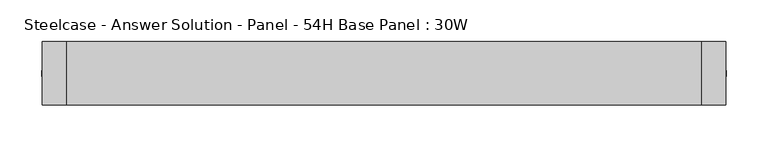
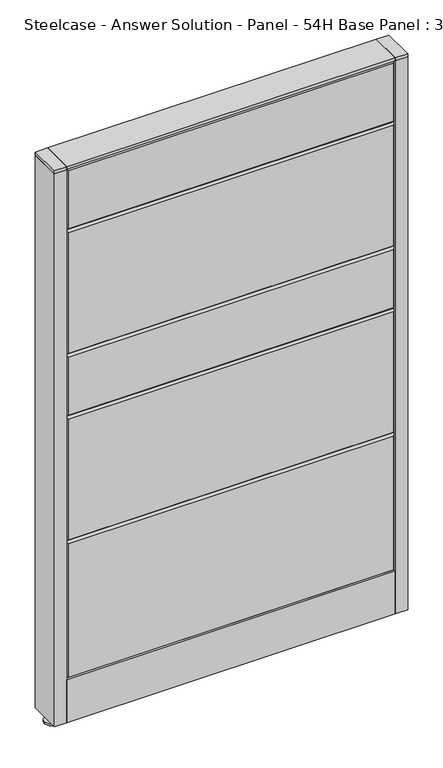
"""IFC4 building model written with IfcOpenShell, lengths in millimetres: furniture geometry, Steelcase - Answer Solution - Panel - 54H Base Panel : 30W."""

from ifc_helpers import new_model, si_unit, point, frame, frame_2d, origin, place, context, project, spatial, polyline, circle_curve, trimmed, segment, composite_curve, outline, extrude, faceted_brep, source, transform, mapped, element, save


def steelcase_answer_solution_panel_54h_base_panel_30w_6c8328d0(model_context):
    return source(origin(), model_context, "Body", "SolidModel", [
        extrude(outline(composite_curve([segment(trimmed(circle_curve(frame_2d((395.224, 0.0320214)), 5.08), [point((400.304, 0.0320214))], [point((390.144, 0.0320214))], False, "CARTESIAN"), True, "CONTINUOUS"), segment(trimmed(circle_curve(frame_2d((395.224, 0.0320214)), 5.08), [point((390.144, 0.0320214))], [point((400.304, 0.0320214))], False, "CARTESIAN"), True, "CONTINUOUS")], self_intersect=False)), frame((0.0, 0.0, 5.0799671), z_axis=(0.0, 0.0, 1.0), x_axis=(1.0, 0.0, 0.0)), (0.0, 0.0, 1.0), 10.414),
        extrude(outline(composite_curve([segment(trimmed(circle_curve(frame_2d((395.224, 0.0320214)), 15.24), [point((410.464, 0.0320214))], [point((379.984, 0.0320214))], False, "CARTESIAN"), True, "CONTINUOUS"), segment(trimmed(circle_curve(frame_2d((395.224, 0.0320214)), 15.24), [point((379.984, 0.0320214))], [point((410.464, 0.0320214))], False, "CARTESIAN"), True, "CONTINUOUS")], self_intersect=False)), frame((0.0, 0.0, -3.29e-05), z_axis=(0.0, 0.0, 1.0), x_axis=(1.0, 0.0, 0.0)), (0.0, 0.0, 1.0), 5.08),
        extrude(outline(polyline([(409.575, 38.1320408), (409.575, -38.0679592), (381.0, -38.0679592), (381.0, 38.1320408), (409.575, 38.1320408)])), frame((0.0, 0.0, 1370.6348), z_axis=(0.0, 0.0, 1.0), x_axis=(1.0, 0.0, 0.0)), (0.0, 0.0, 1.0), 7.3151671),
        extrude(outline(polyline([(409.575, 38.1320408), (409.575, -38.0679592), (381.0, -38.0679592), (381.0, 38.1320408), (409.575, 38.1320408)])), frame((0.0, 0.0, 15.4939671), z_axis=(0.0, 0.0, 1.0), x_axis=(1.0, 0.0, 0.0)), (0.0, 0.0, 1.0), 1355.1408329),
        extrude(outline(composite_curve([segment(trimmed(circle_curve(frame_2d((-395.224, 0.0320214)), 5.08), [point((-400.304, 0.0320214))], [point((-390.144, 0.0320214))], False, "CARTESIAN"), True, "CONTINUOUS"), segment(trimmed(circle_curve(frame_2d((-395.224, 0.0320214)), 5.08), [point((-390.144, 0.0320214))], [point((-400.304, 0.0320214))], False, "CARTESIAN"), True, "CONTINUOUS")], self_intersect=False)), frame((0.0, 0.0, 5.0799671), z_axis=(0.0, 0.0, 1.0), x_axis=(1.0, 0.0, 0.0)), (0.0, 0.0, 1.0), 10.414),
        extrude(outline(composite_curve([segment(trimmed(circle_curve(frame_2d((-395.224, 0.0320214)), 15.24), [point((-410.464, 0.0320214))], [point((-379.984, 0.0320214))], False, "CARTESIAN"), True, "CONTINUOUS"), segment(trimmed(circle_curve(frame_2d((-395.224, 0.0320214)), 15.24), [point((-379.984, 0.0320214))], [point((-410.464, 0.0320214))], False, "CARTESIAN"), True, "CONTINUOUS")], self_intersect=False)), frame((0.0, 0.0, -3.29e-05), z_axis=(0.0, 0.0, 1.0), x_axis=(1.0, 0.0, 0.0)), (0.0, 0.0, 1.0), 5.08),
        extrude(outline(polyline([(-409.575, 38.1320408), (-381.0, 38.1320408), (-381.0, -38.0679592), (-409.575, -38.0679592), (-409.575, 38.1320408)])), frame((0.0, 0.0, 1370.6348), z_axis=(0.0, 0.0, 1.0), x_axis=(1.0, 0.0, 0.0)), (0.0, 0.0, 1.0), 7.3151671),
        extrude(outline(polyline([(-409.575, 38.1320408), (-381.0, 38.1320408), (-381.0, -38.0679592), (-409.575, -38.0679592), (-409.575, 38.1320408)])), frame((0.0, 0.0, 15.4939671), z_axis=(0.0, 0.0, 1.0), x_axis=(1.0, 0.0, 0.0)), (0.0, 0.0, 1.0), 1355.1408329),
        faceted_brep([(-376.174, 38.1635011, 1366.774), (376.174, 38.1635011, 1366.774), (376.174, 38.1635011, 1224.026), (-376.174, 38.1635011, 1224.026), (-381.0, 33.3375011, 1371.6), (-381.0, 33.3375011, 1219.2), (381.0, 33.3375011, 1219.2), (381.0, 33.3375011, 1371.6)], [[[0, 1, 2, 3]], [[4, 5, 6, 7]], [[4, 7, 1, 0]], [[7, 6, 2, 1]], [[6, 5, 3, 2]], [[5, 4, 0, 3]]]),
        faceted_brep([(-376.174, 38.1635011, 1214.374), (376.174, 38.1635011, 1214.374), (376.174, 38.1635011, 919.226), (-376.174, 38.1635011, 919.226), (-381.0, 33.3375011, 1219.2), (-381.0, 33.3375011, 914.4), (381.0, 33.3375011, 914.4), (381.0, 33.3375011, 1219.2)], [[[0, 1, 2, 3]], [[4, 5, 6, 7]], [[4, 7, 1, 0]], [[7, 6, 2, 1]], [[6, 5, 3, 2]], [[5, 4, 0, 3]]]),
        faceted_brep([(-376.174, 38.1635011, 909.574), (376.174, 38.1635011, 909.574), (376.174, 38.1635011, 766.826), (-376.174, 38.1635011, 766.826), (-381.0, 33.3375011, 914.4), (-381.0, 33.3375011, 762.0), (381.0, 33.3375011, 762.0), (381.0, 33.3375011, 914.4)], [[[0, 1, 2, 3]], [[4, 5, 6, 7]], [[4, 7, 1, 0]], [[7, 6, 2, 1]], [[6, 5, 3, 2]], [[5, 4, 0, 3]]]),
        faceted_brep([(-376.174, 38.1635011, 757.174), (376.174, 38.1635011, 757.174), (376.174, 38.1635011, 462.026), (-376.174, 38.1635011, 462.026), (-381.0, 33.3375011, 762.0), (-381.0, 33.3375011, 457.2), (381.0, 33.3375011, 457.2), (381.0, 33.3375011, 762.0)], [[[0, 1, 2, 3]], [[4, 5, 6, 7]], [[4, 7, 1, 0]], [[7, 6, 2, 1]], [[6, 5, 3, 2]], [[5, 4, 0, 3]]]),
        faceted_brep([(-376.174, 38.1635011, 452.374), (376.174, 38.1635011, 452.374), (376.174, 38.1635011, 125.476), (-376.174, 38.1635011, 125.476), (-381.0, 33.3375011, 457.2), (-381.0, 33.3375011, 120.65), (381.0, 33.3375011, 120.65), (381.0, 33.3375011, 457.2)], [[[0, 1, 2, 3]], [[4, 5, 6, 7]], [[4, 7, 1, 0]], [[7, 6, 2, 1]], [[6, 5, 3, 2]], [[5, 4, 0, 3]]]),
        faceted_brep([(376.174, -38.1635011, 1366.774), (-376.174, -38.1635011, 1366.774), (-376.174, -38.1635011, 1224.026), (376.174, -38.1635011, 1224.026), (381.0, -33.3375011, 1371.6), (381.0, -33.3375011, 1219.2), (-381.0, -33.3375011, 1219.2), (-381.0, -33.3375011, 1371.6)], [[[0, 1, 2, 3]], [[4, 5, 6, 7]], [[4, 7, 1, 0]], [[7, 6, 2, 1]], [[6, 5, 3, 2]], [[5, 4, 0, 3]]]),
        faceted_brep([(376.174, -38.1635011, 1214.374), (-376.174, -38.1635011, 1214.374), (-376.174, -38.1635011, 919.226), (376.174, -38.1635011, 919.226), (381.0, -33.3375011, 1219.2), (381.0, -33.3375011, 914.4), (-381.0, -33.3375011, 914.4), (-381.0, -33.3375011, 1219.2)], [[[0, 1, 2, 3]], [[4, 5, 6, 7]], [[4, 7, 1, 0]], [[7, 6, 2, 1]], [[6, 5, 3, 2]], [[5, 4, 0, 3]]]),
        faceted_brep([(376.174, -38.1635011, 909.574), (-376.174, -38.1635011, 909.574), (-376.174, -38.1635011, 766.826), (376.174, -38.1635011, 766.826), (381.0, -33.3375011, 914.4), (381.0, -33.3375011, 762.0), (-381.0, -33.3375011, 762.0), (-381.0, -33.3375011, 914.4)], [[[0, 1, 2, 3]], [[4, 5, 6, 7]], [[4, 7, 1, 0]], [[7, 6, 2, 1]], [[6, 5, 3, 2]], [[5, 4, 0, 3]]]),
        faceted_brep([(376.174, -38.1635011, 757.174), (-376.174, -38.1635011, 757.174), (-376.174, -38.1635011, 462.026), (376.174, -38.1635011, 462.026), (381.0, -33.3375011, 762.0), (381.0, -33.3375011, 457.2), (-381.0, -33.3375011, 457.2), (-381.0, -33.3375011, 762.0)], [[[0, 1, 2, 3]], [[4, 5, 6, 7]], [[4, 7, 1, 0]], [[7, 6, 2, 1]], [[6, 5, 3, 2]], [[5, 4, 0, 3]]]),
        faceted_brep([(376.174, -38.1635011, 452.374), (-376.174, -38.1635011, 452.374), (-376.174, -38.1635011, 125.476), (376.174, -38.1635011, 125.476), (381.0, -33.3375011, 457.2), (381.0, -33.3375011, 120.65), (-381.0, -33.3375011, 120.65), (-381.0, -33.3375011, 457.2)], [[[0, 1, 2, 3]], [[4, 5, 6, 7]], [[4, 7, 1, 0]], [[7, 6, 2, 1]], [[6, 5, 3, 2]], [[5, 4, 0, 3]]]),
        extrude(outline(polyline([(381.0, 38.1000194), (381.0, -38.1000194), (-381.0, -38.1000194), (-381.0, 38.1000194), (381.0, 38.1000194)])), frame((0.0, 0.0, 1371.6), z_axis=(0.0, 0.0, 1.0), x_axis=(1.0, 0.0, 0.0)), (0.0, 0.0, 1.0), 6.35),
        extrude(outline(polyline([(25.4000011, 119.8575157), (25.4000011, 120.65), (38.1000194, 120.65), (38.1000194, 15.494), (37.3075215, 15.494), (37.3075215, 119.8575157), (25.4000011, 119.8575157)])), frame((-381.0, 0.0, 0.0), z_axis=(1.0, 0.0, 0.0), x_axis=(0.0, 1.0, 0.0)), (0.0, 0.0, 1.0), 762.0),
        extrude(outline(polyline([(-25.4000011, 119.8575157), (-37.3075215, 119.8575157), (-37.3075215, 15.494), (-38.1000194, 15.494), (-38.1000194, 120.65), (-25.4000011, 120.65), (-25.4000011, 119.8575157)])), frame((-381.0, 0.0, 0.0), z_axis=(1.0, 0.0, 0.0), x_axis=(0.0, 1.0, 0.0)), (0.0, 0.0, 1.0), 762.0),
    ])


if __name__ == "__main__":
    model = new_model("IFC4")
    model_context = context("Model", 3, world=origin())
    ifc_project = project(units=[si_unit("LENGTHUNIT", "METRE", prefix="MILLI")], contexts=[model_context])
    site = spatial("IfcSite", under=ifc_project)
    building = spatial("IfcBuilding", under=site)
    placement = place(None, origin())
    steelcase_answer_solution_panel_54h_base_panel_30w_shape = steelcase_answer_solution_panel_54h_base_panel_30w_6c8328d0(model_context)
    element("IfcFurniture", 1, ObjectType="Steelcase - Answer Solution - Panel - 54H Base Panel : 30W", at=placement, inside=building, context=model_context, shape_type="MappedRepresentation", body=[
        mapped(steelcase_answer_solution_panel_54h_base_panel_30w_shape, transform((0.0, 0.0, 0.0), x_axis=(1.0, 0.0, 0.0), y_axis=(0.0, 1.0, 0.0), z_axis=(0.0, 0.0, 1.0))),
    ])
    save(model, "model.ifc")
